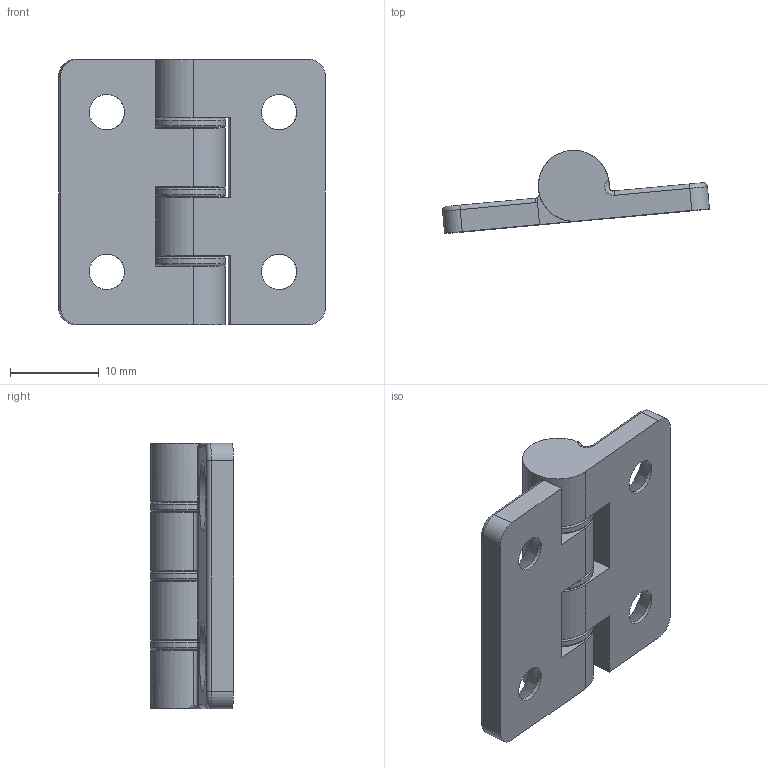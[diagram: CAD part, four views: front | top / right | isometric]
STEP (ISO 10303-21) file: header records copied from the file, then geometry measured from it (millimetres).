
FILE_DESCRIPTION(/* description */ (''),/* implementation_level */ '2;1');
FILE_NAME(/* name */ '\\NAS\db20\HS3030\DR_HS3030.stp',/* time_stamp */ '2017-08-21T08:14:34+09:00',/* author */ ('user'),/* organization */ (''),/* preprocessor_version */ 'ST-DEVELOPER v15.6',/* originating_system */ 'Autodesk Inventor 2015',/* authorisation */ '');
FILE_SCHEMA (('AUTOMOTIVE_DESIGN { 1 0 10303 214 3 1 1 }'));
Length unit declared in the file: millimetre
Products named in the file (3): DR_HS3030_1; DR_HS3030_RING; DR_HS3030
Bounding box: 30.1 x 9.36 x 30 mm (x, y, z)
Volume: 3181.6 mm3; surface area: 3117.9 mm2
Topology: 5 solids, 5 shells, 69 faces, 163 edges, 104 vertices
Faces by surface type: plane 26, cylinder 25, torus 14, cone 4
Full cylindrical faces by diameter (mm): 4 x4, 8 x3
Entity records: 1034 total; most frequent: CARTESIAN_POINT 196, DIRECTION 177, ORIENTED_EDGE 138, AXIS2_PLACEMENT_3D 73, EDGE_CURVE 69, VERTEX_POINT 48, EDGE_LOOP 43, CIRCLE 33
